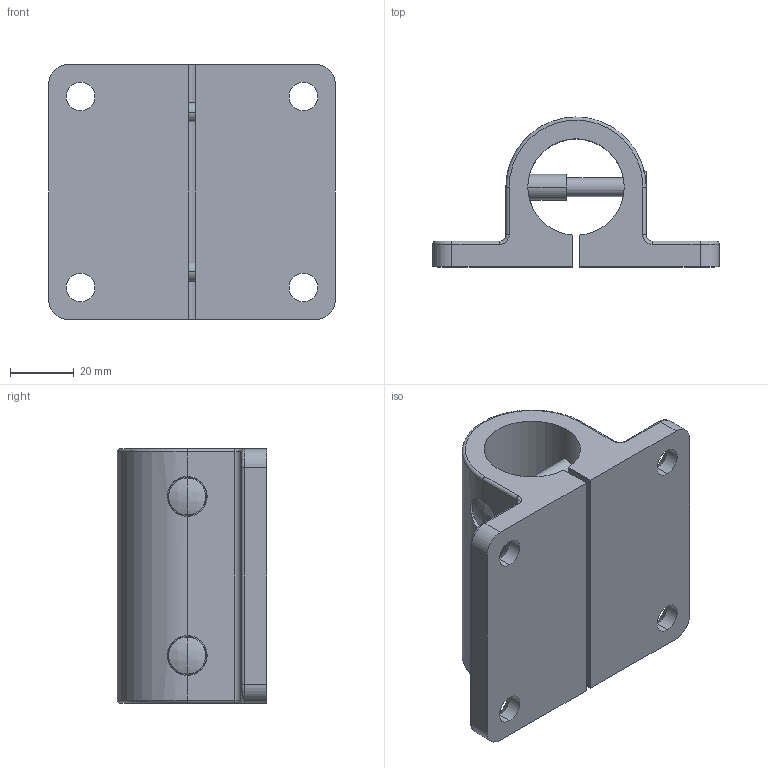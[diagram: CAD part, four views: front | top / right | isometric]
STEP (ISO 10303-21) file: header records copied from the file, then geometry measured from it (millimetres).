
FILE_DESCRIPTION (( 'STEP AP214' ), '1' );
FILE_NAME ('31000410037.STEP', '2024-09-02T09:36:28', ( '' ), ( '' ), 'SwSTEP 2.0', 'SolidWorks 2016', '' );
FILE_SCHEMA (( 'AUTOMOTIVE_DESIGN' ));
Length unit declared in the file: millimetre
Products named in the file (4): 635179_H³lsenmutter; 31000410037; 1864_1-Schalig; DIN 6912  (Regelgewinde) M6 x 30
Assembly tree (5 placements, depth 2):
  31000410037
    1864_1-Schalig
    635179_H³lsenmutter  x2
    DIN 6912  (Regelgewinde) M6 x 30  x2
Bounding box: 90 x 47 x 80 mm (x, y, z)
Volume: 117519.3 mm3; surface area: 36151.8 mm2
Topology: 5 solids, 5 shells, 152 faces, 364 edges, 218 vertices
Faces by surface type: cylinder 68, plane 38, cone 28, bspline 14, sphere 4
Entity records: 5521 total; most frequent: CARTESIAN_POINT 1402, DIRECTION 594, ORIENTED_EDGE 552, EDGE_CURVE 276, AXIS2_PLACEMENT_3D 235, VERTEX_POINT 167, EDGE_LOOP 131, UNCERTAINTY_MEASURE_WITH_UNIT 125
